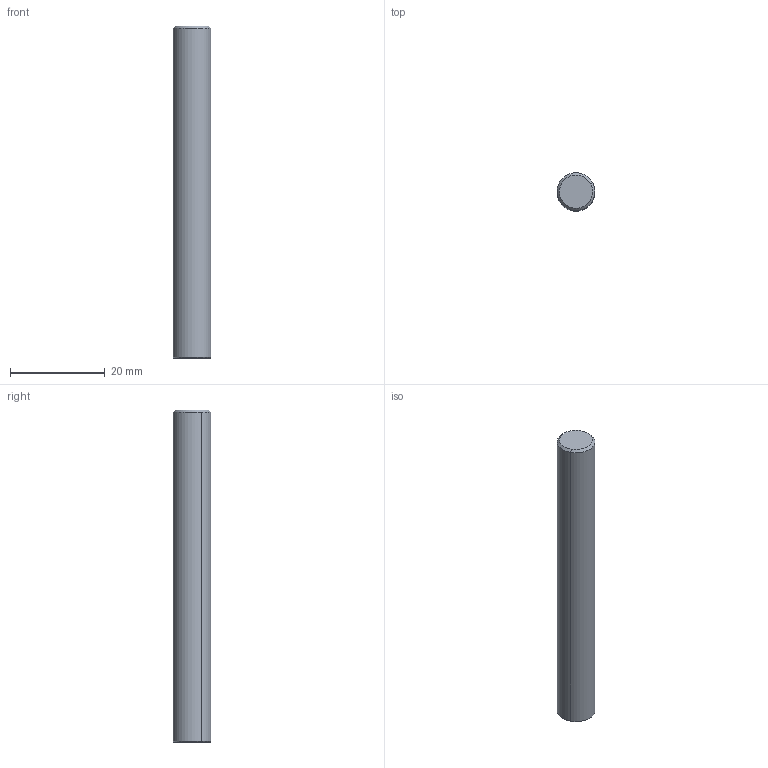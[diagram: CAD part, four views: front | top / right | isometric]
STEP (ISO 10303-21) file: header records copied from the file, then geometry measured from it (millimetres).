
FILE_DESCRIPTION(('CATIA V5 STEP Exchange'),'2;1');
FILE_NAME('I:\isr\design\admin8\users\farid_a\3103149.stp','2012-04-30T03:59:17+00:00',('none'),('none'),'CATIA Version 5 Release 19 SP 7 (IN-10)','CATIA V5 STEP AP214','none');
FILE_SCHEMA(('AUTOMOTIVE_DESIGN { 1 0 10303 214 1 1 1 1 }'));
Length unit declared in the file: millimetre
Products named in the file (1): 60954134_0  MM TS-A-L070-C08-T05
Bounding box: 8 x 8 x 70 mm (x, y, z)
Volume: 3515.4 mm3; surface area: 1850.6 mm2
Topology: 1 solids, 1 shells, 8 faces, 14 edges, 8 vertices
Faces by surface type: cone 4, cylinder 2, plane 2
Entity records: 207 total; most frequent: CARTESIAN_POINT 31, DIRECTION 30, ORIENTED_EDGE 28, AXIS2_PLACEMENT_3D 17, EDGE_CURVE 14, ADVANCED_FACE 8, CIRCLE 8, EDGE_LOOP 8
